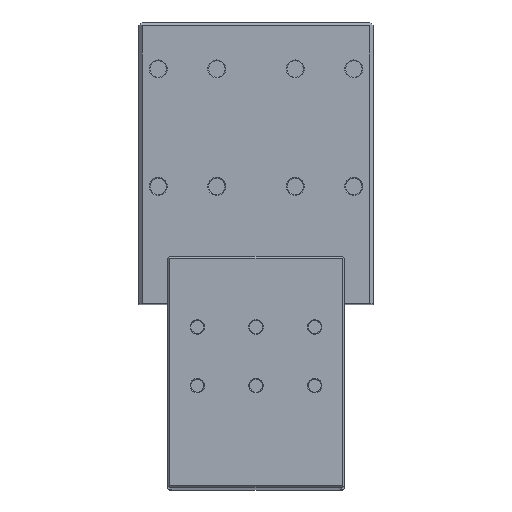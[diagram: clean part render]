
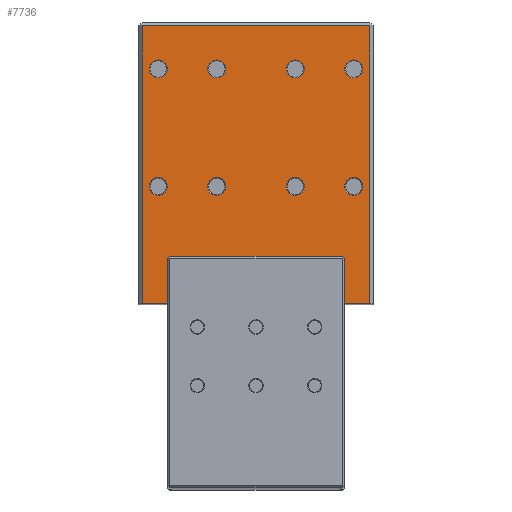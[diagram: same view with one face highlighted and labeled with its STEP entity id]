
A CAD part, top view. The second image highlights one B-rep face of the part: STEP entity #7736.
In plain terms, the highlighted planar face has unit normal (0, 0, 1).
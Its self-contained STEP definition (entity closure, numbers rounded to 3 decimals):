
#4766=DIRECTION('',(1.,0.,0.));
#4767=VECTOR('',#4766,58.);
#4768=CARTESIAN_POINT('',(-29.,0.,80.));
#4769=LINE('',#4768,#4767);
#5024=DIRECTION('',(0.,-1.,0.));
#5025=VECTOR('',#5024,71.);
#5026=CARTESIAN_POINT('',(-29.,71.,80.));
#5027=LINE('',#5026,#5025);
#5028=DIRECTION('',(1.,0.,0.));
#5029=VECTOR('',#5028,58.);
#5030=CARTESIAN_POINT('',(-29.,71.,80.));
#5031=LINE('',#5030,#5029);
#5032=DIRECTION('',(0.,-1.,0.));
#5033=VECTOR('',#5032,71.);
#5034=CARTESIAN_POINT('',(29.,71.,80.));
#5035=LINE('',#5034,#5033);
#5036=CARTESIAN_POINT('',(-25.,60.,80.));
#5037=DIRECTION('',(0.,0.,-1.));
#5038=DIRECTION('',(-1.,0.,0.));
#5039=AXIS2_PLACEMENT_3D('',#5036,#5037,#5038);
#5041=CARTESIAN_POINT('',(-25.,60.,80.));
#5042=DIRECTION('',(0.,0.,-1.));
#5043=DIRECTION('',(1.,0.,0.));
#5044=AXIS2_PLACEMENT_3D('',#5041,#5042,#5043);
#5046=CARTESIAN_POINT('',(-10.,60.,80.));
#5047=DIRECTION('',(0.,0.,-1.));
#5048=DIRECTION('',(-1.,0.,0.));
#5049=AXIS2_PLACEMENT_3D('',#5046,#5047,#5048);
#5051=CARTESIAN_POINT('',(-10.,60.,80.));
#5052=DIRECTION('',(0.,0.,-1.));
#5053=DIRECTION('',(1.,0.,0.));
#5054=AXIS2_PLACEMENT_3D('',#5051,#5052,#5053);
#5056=CARTESIAN_POINT('',(10.,60.,80.));
#5057=DIRECTION('',(0.,0.,-1.));
#5058=DIRECTION('',(-1.,0.,0.));
#5059=AXIS2_PLACEMENT_3D('',#5056,#5057,#5058);
#5061=CARTESIAN_POINT('',(10.,60.,80.));
#5062=DIRECTION('',(0.,0.,-1.));
#5063=DIRECTION('',(1.,0.,0.));
#5064=AXIS2_PLACEMENT_3D('',#5061,#5062,#5063);
#5066=CARTESIAN_POINT('',(25.,60.,80.));
#5067=DIRECTION('',(0.,0.,-1.));
#5068=DIRECTION('',(-1.,0.,0.));
#5069=AXIS2_PLACEMENT_3D('',#5066,#5067,#5068);
#5071=CARTESIAN_POINT('',(25.,60.,80.));
#5072=DIRECTION('',(0.,0.,-1.));
#5073=DIRECTION('',(1.,0.,0.));
#5074=AXIS2_PLACEMENT_3D('',#5071,#5072,#5073);
#5076=CARTESIAN_POINT('',(25.,30.,80.));
#5077=DIRECTION('',(0.,0.,-1.));
#5078=DIRECTION('',(-1.,0.,0.));
#5079=AXIS2_PLACEMENT_3D('',#5076,#5077,#5078);
#5081=CARTESIAN_POINT('',(25.,30.,80.));
#5082=DIRECTION('',(0.,0.,-1.));
#5083=DIRECTION('',(1.,0.,0.));
#5084=AXIS2_PLACEMENT_3D('',#5081,#5082,#5083);
#5086=CARTESIAN_POINT('',(10.,30.,80.));
#5087=DIRECTION('',(0.,0.,-1.));
#5088=DIRECTION('',(-1.,0.,0.));
#5089=AXIS2_PLACEMENT_3D('',#5086,#5087,#5088);
#5091=CARTESIAN_POINT('',(10.,30.,80.));
#5092=DIRECTION('',(0.,0.,-1.));
#5093=DIRECTION('',(1.,0.,0.));
#5094=AXIS2_PLACEMENT_3D('',#5091,#5092,#5093);
#5096=CARTESIAN_POINT('',(-10.,30.,80.));
#5097=DIRECTION('',(0.,0.,-1.));
#5098=DIRECTION('',(-1.,0.,0.));
#5099=AXIS2_PLACEMENT_3D('',#5096,#5097,#5098);
#5101=CARTESIAN_POINT('',(-10.,30.,80.));
#5102=DIRECTION('',(0.,0.,-1.));
#5103=DIRECTION('',(1.,0.,0.));
#5104=AXIS2_PLACEMENT_3D('',#5101,#5102,#5103);
#5106=CARTESIAN_POINT('',(-25.,30.,80.));
#5107=DIRECTION('',(0.,0.,-1.));
#5108=DIRECTION('',(-1.,0.,0.));
#5109=AXIS2_PLACEMENT_3D('',#5106,#5107,#5108);
#5111=CARTESIAN_POINT('',(-25.,30.,80.));
#5112=DIRECTION('',(0.,0.,-1.));
#5113=DIRECTION('',(1.,0.,0.));
#5114=AXIS2_PLACEMENT_3D('',#5111,#5112,#5113);
#6874=CARTESIAN_POINT('',(-29.,0.,80.));
#6876=VERTEX_POINT('',#6874);
#6878=CARTESIAN_POINT('',(-29.,71.,80.));
#6879=VERTEX_POINT('',#6878);
#6880=CARTESIAN_POINT('',(29.,71.,80.));
#6881=VERTEX_POINT('',#6880);
#6885=CARTESIAN_POINT('',(29.,0.,80.));
#6887=VERTEX_POINT('',#6885);
#7074=CARTESIAN_POINT('',(-27.3,60.,80.));
#7075=CARTESIAN_POINT('',(-22.7,60.,80.));
#7076=VERTEX_POINT('',#7074);
#7077=VERTEX_POINT('',#7075);
#7082=CARTESIAN_POINT('',(-12.3,60.,80.));
#7083=CARTESIAN_POINT('',(-7.7,60.,80.));
#7084=VERTEX_POINT('',#7082);
#7085=VERTEX_POINT('',#7083);
#7090=CARTESIAN_POINT('',(7.7,60.,80.));
#7091=CARTESIAN_POINT('',(12.3,60.,80.));
#7092=VERTEX_POINT('',#7090);
#7093=VERTEX_POINT('',#7091);
#7098=CARTESIAN_POINT('',(22.7,60.,80.));
#7099=CARTESIAN_POINT('',(27.3,60.,80.));
#7100=VERTEX_POINT('',#7098);
#7101=VERTEX_POINT('',#7099);
#7106=CARTESIAN_POINT('',(22.7,30.,80.));
#7107=CARTESIAN_POINT('',(27.3,30.,80.));
#7108=VERTEX_POINT('',#7106);
#7109=VERTEX_POINT('',#7107);
#7114=CARTESIAN_POINT('',(7.7,30.,80.));
#7115=CARTESIAN_POINT('',(12.3,30.,80.));
#7116=VERTEX_POINT('',#7114);
#7117=VERTEX_POINT('',#7115);
#7122=CARTESIAN_POINT('',(-12.3,30.,80.));
#7123=CARTESIAN_POINT('',(-7.7,30.,80.));
#7124=VERTEX_POINT('',#7122);
#7125=VERTEX_POINT('',#7123);
#7130=CARTESIAN_POINT('',(-27.3,30.,80.));
#7131=CARTESIAN_POINT('',(-22.7,30.,80.));
#7132=VERTEX_POINT('',#7130);
#7133=VERTEX_POINT('',#7131);
#7675=CARTESIAN_POINT('',(-30.,0.,80.));
#7676=DIRECTION('',(0.,0.,1.));
#7677=DIRECTION('',(1.,0.,0.));
#7678=AXIS2_PLACEMENT_3D('',#7675,#7676,#7677);
#7679=PLANE('',#7678);
#7681=ORIENTED_EDGE('',*,*,#7680,.F.);
#7683=ORIENTED_EDGE('',*,*,#7682,.T.);
#7684=ORIENTED_EDGE('',*,*,#7665,.T.);
#7685=ORIENTED_EDGE('',*,*,#7405,.F.);
#7686=EDGE_LOOP('',(#7681,#7683,#7684,#7685));
#7687=FACE_OUTER_BOUND('',#7686,.F.);
#7689=ORIENTED_EDGE('',*,*,#7688,.F.);
#7691=ORIENTED_EDGE('',*,*,#7690,.F.);
#7692=EDGE_LOOP('',(#7689,#7691));
#7693=FACE_BOUND('',#7692,.F.);
#7695=ORIENTED_EDGE('',*,*,#7694,.F.);
#7697=ORIENTED_EDGE('',*,*,#7696,.F.);
#7698=EDGE_LOOP('',(#7695,#7697));
#7699=FACE_BOUND('',#7698,.F.);
#7701=ORIENTED_EDGE('',*,*,#7700,.F.);
#7703=ORIENTED_EDGE('',*,*,#7702,.F.);
#7704=EDGE_LOOP('',(#7701,#7703));
#7705=FACE_BOUND('',#7704,.F.);
#7707=ORIENTED_EDGE('',*,*,#7706,.F.);
#7709=ORIENTED_EDGE('',*,*,#7708,.F.);
#7710=EDGE_LOOP('',(#7707,#7709));
#7711=FACE_BOUND('',#7710,.F.);
#7713=ORIENTED_EDGE('',*,*,#7712,.F.);
#7715=ORIENTED_EDGE('',*,*,#7714,.F.);
#7716=EDGE_LOOP('',(#7713,#7715));
#7717=FACE_BOUND('',#7716,.F.);
#7719=ORIENTED_EDGE('',*,*,#7718,.F.);
#7721=ORIENTED_EDGE('',*,*,#7720,.F.);
#7722=EDGE_LOOP('',(#7719,#7721));
#7723=FACE_BOUND('',#7722,.F.);
#7725=ORIENTED_EDGE('',*,*,#7724,.F.);
#7727=ORIENTED_EDGE('',*,*,#7726,.F.);
#7728=EDGE_LOOP('',(#7725,#7727));
#7729=FACE_BOUND('',#7728,.F.);
#7731=ORIENTED_EDGE('',*,*,#7730,.F.);
#7733=ORIENTED_EDGE('',*,*,#7732,.F.);
#7734=EDGE_LOOP('',(#7731,#7733));
#7735=FACE_BOUND('',#7734,.F.);
#5040=CIRCLE('',#5039,2.3);
#5045=CIRCLE('',#5044,2.3);
#5050=CIRCLE('',#5049,2.3);
#5055=CIRCLE('',#5054,2.3);
#5060=CIRCLE('',#5059,2.3);
#5065=CIRCLE('',#5064,2.3);
#5070=CIRCLE('',#5069,2.3);
#5075=CIRCLE('',#5074,2.3);
#5080=CIRCLE('',#5079,2.3);
#5085=CIRCLE('',#5084,2.3);
#5090=CIRCLE('',#5089,2.3);
#5095=CIRCLE('',#5094,2.3);
#5100=CIRCLE('',#5099,2.3);
#5105=CIRCLE('',#5104,2.3);
#5110=CIRCLE('',#5109,2.3);
#5115=CIRCLE('',#5114,2.3);
#7405=EDGE_CURVE('',#6876,#6887,#4769,.T.);
#7665=EDGE_CURVE('',#6881,#6887,#5035,.T.);
#7680=EDGE_CURVE('',#6879,#6876,#5027,.T.);
#7682=EDGE_CURVE('',#6879,#6881,#5031,.T.);
#7688=EDGE_CURVE('',#7076,#7077,#5040,.T.);
#7690=EDGE_CURVE('',#7077,#7076,#5045,.T.);
#7694=EDGE_CURVE('',#7084,#7085,#5050,.T.);
#7696=EDGE_CURVE('',#7085,#7084,#5055,.T.);
#7700=EDGE_CURVE('',#7092,#7093,#5060,.T.);
#7702=EDGE_CURVE('',#7093,#7092,#5065,.T.);
#7706=EDGE_CURVE('',#7100,#7101,#5070,.T.);
#7708=EDGE_CURVE('',#7101,#7100,#5075,.T.);
#7712=EDGE_CURVE('',#7108,#7109,#5080,.T.);
#7714=EDGE_CURVE('',#7109,#7108,#5085,.T.);
#7718=EDGE_CURVE('',#7116,#7117,#5090,.T.);
#7720=EDGE_CURVE('',#7117,#7116,#5095,.T.);
#7724=EDGE_CURVE('',#7124,#7125,#5100,.T.);
#7726=EDGE_CURVE('',#7125,#7124,#5105,.T.);
#7730=EDGE_CURVE('',#7132,#7133,#5110,.T.);
#7732=EDGE_CURVE('',#7133,#7132,#5115,.T.);
#7736=ADVANCED_FACE('',(#7687,#7693,#7699,#7705,#7711,#7717,#7723,#7729,#7735),
#7679,.T.);
